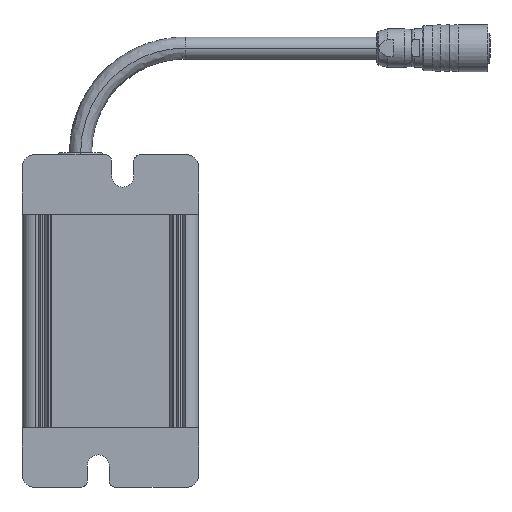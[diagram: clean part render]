
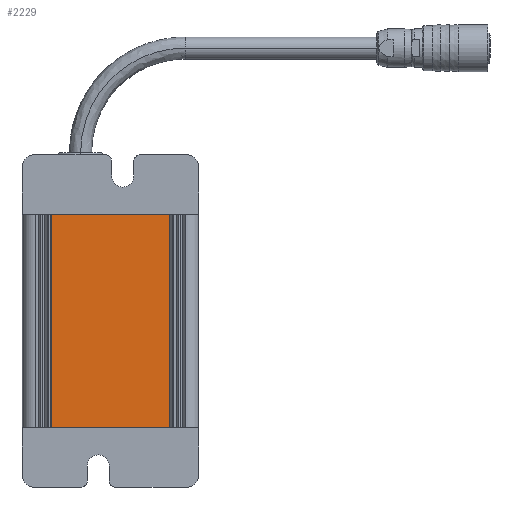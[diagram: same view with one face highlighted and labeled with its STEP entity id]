
A CAD part, front view. The second image highlights one B-rep face of the part: STEP entity #2229.
In plain terms, the highlighted planar face has unit normal (0, -1, 0).
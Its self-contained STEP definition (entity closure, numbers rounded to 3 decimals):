
#1826 = PLANE ( 'NONE',  #19518 ) ;
#2229 = ADVANCED_FACE ( 'NONE', ( #25045 ), #1826, .T. ) ;
#2412 = DIRECTION ( 'NONE',  ( 0., 0., 1. ) ) ;
#3850 = EDGE_CURVE ( 'NONE', #19181, #8670, #9447, .T. ) ;
#6449 = CARTESIAN_POINT ( 'NONE',  ( 34.55, 0.72, 0. ) ) ;
#7397 = ORIENTED_EDGE ( 'NONE', *, *, #3850, .T. ) ;
#7867 = CARTESIAN_POINT ( 'NONE',  ( 6.703, 0.72, 0. ) ) ;
#8670 = VERTEX_POINT ( 'NONE', #43930 ) ;
#9447 = LINE ( 'NONE', #7867, #44461 ) ;
#9929 = CARTESIAN_POINT ( 'NONE',  ( 34.55, 0.72, 0. ) ) ;
#10597 = DIRECTION ( 'NONE',  ( 1., 0., 0. ) ) ;
#12788 = ORIENTED_EDGE ( 'NONE', *, *, #23949, .T. ) ;
#16982 = VECTOR ( 'NONE', #10597, 1000. ) ;
#17333 = CARTESIAN_POINT ( 'NONE',  ( 24.246, 0.72, 0. ) ) ;
#17950 = VERTEX_POINT ( 'NONE', #22183 ) ;
#17977 = EDGE_LOOP ( 'NONE', ( #19515, #12788, #7397, #20628 ) ) ;
#18802 = VECTOR ( 'NONE', #2412, 1000. ) ;
#19181 = VERTEX_POINT ( 'NONE', #21942 ) ;
#19515 = ORIENTED_EDGE ( 'NONE', *, *, #28826, .T. ) ;
#19518 = AXIS2_PLACEMENT_3D ( 'NONE', #6449, #39631, #24225 ) ;
#19725 = LINE ( 'NONE', #34470, #38108 ) ;
#20628 = ORIENTED_EDGE ( 'NONE', *, *, #31652, .T. ) ;
#21292 = VERTEX_POINT ( 'NONE', #34589 ) ;
#21942 = CARTESIAN_POINT ( 'NONE',  ( 6.703, 0.72, 50. ) ) ;
#22183 = CARTESIAN_POINT ( 'NONE',  ( 34.55, 0.72, 50. ) ) ;
#23694 = DIRECTION ( 'NONE',  ( -1., 0., 0. ) ) ;
#23949 = EDGE_CURVE ( 'NONE', #17950, #19181, #19725, .T. ) ;
#24225 = DIRECTION ( 'NONE',  ( 0., 0., -1. ) ) ;
#25045 = FACE_OUTER_BOUND ( 'NONE', #17977, .T. ) ;
#26599 = DIRECTION ( 'NONE',  ( 0., 0., -1. ) ) ;
#28826 = EDGE_CURVE ( 'NONE', #21292, #17950, #29730, .T. ) ;
#29730 = LINE ( 'NONE', #9929, #18802 ) ;
#31652 = EDGE_CURVE ( 'NONE', #8670, #21292, #33051, .T. ) ;
#33051 = LINE ( 'NONE', #17333, #16982 ) ;
#34470 = CARTESIAN_POINT ( 'NONE',  ( 34.55, 0.72, 50. ) ) ;
#34589 = CARTESIAN_POINT ( 'NONE',  ( 34.55, 0.72, 0. ) ) ;
#38108 = VECTOR ( 'NONE', #23694, 1000. ) ;
#39631 = DIRECTION ( 'NONE',  ( 0., -1., 0. ) ) ;
#43930 = CARTESIAN_POINT ( 'NONE',  ( 6.703, 0.72, 0. ) ) ;
#44461 = VECTOR ( 'NONE', #26599, 1000. ) ;
